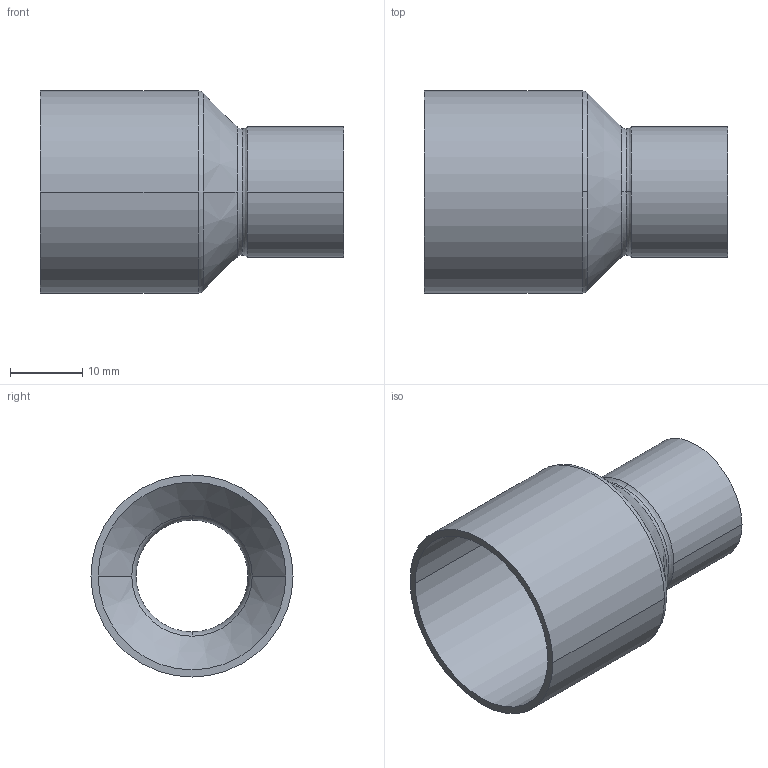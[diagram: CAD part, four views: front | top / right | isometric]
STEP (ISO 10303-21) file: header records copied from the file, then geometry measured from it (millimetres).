
FILE_DESCRIPTION((''),'2;1');
FILE_NAME('G:\Technics\CAD\Bauteile\Serie 15243\152432816.stp','2005-10-21T12:49:39',('boden'),(''),'Autodesk Inventor 8','Autodesk Inventor 8','');
FILE_SCHEMA(('AUTOMOTIVE_DESIGN { 1 0 10303 214 1 1 1 1 }'));
Length unit declared in the file: millimetre
Products named in the file (1): 152432816
Bounding box: 42 x 28 x 28 mm (x, y, z)
Volume: 3164.9 mm3; surface area: 6468.8 mm2
Topology: 1 solids, 1 shells, 24 faces, 60 edges, 38 vertices
Faces by surface type: cylinder 8, torus 6, bspline 4, cone 4, plane 2
Entity records: 931 total; most frequent: CARTESIAN_POINT 299, DIRECTION 150, ORIENTED_EDGE 120, AXIS2_PLACEMENT_3D 69, EDGE_CURVE 60, CIRCLE 48, VERTEX_POINT 38, EDGE_LOOP 26
